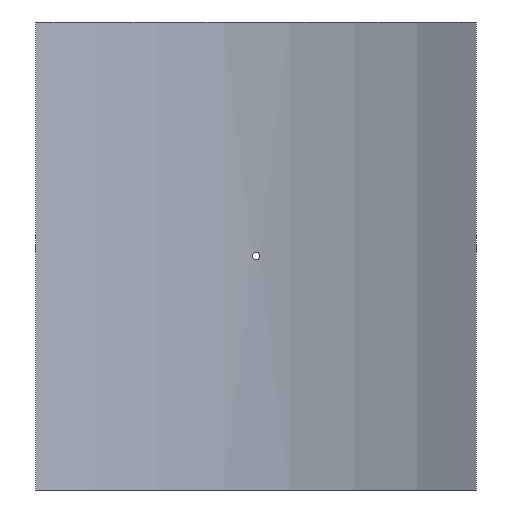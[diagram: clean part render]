
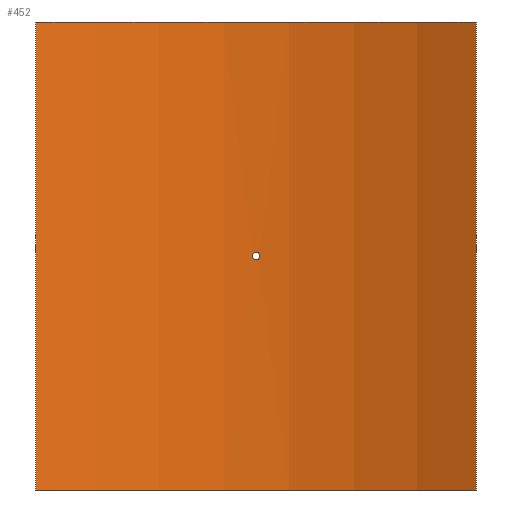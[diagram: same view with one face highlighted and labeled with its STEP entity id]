
A CAD part, front view. The second image highlights one B-rep face of the part: STEP entity #452.
In plain terms, the highlighted cylindrical face has radius 600 mm (diameter 1200 mm), a partial arc.
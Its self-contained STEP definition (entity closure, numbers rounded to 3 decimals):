
#19=B_SPLINE_CURVE_WITH_KNOTS('',3,(#788,#789,#790,#791,#792,#793,#794,
#795,#796,#797,#798,#799,#800,#801,#802,#803,#804,#805,#806,#807,#808,#809,
#810,#811,#812,#813,#814,#815,#816,#817,#818,#819,#820,#821),
 .UNSPECIFIED.,.T.,.F.,(4,2,2,2,2,2,2,2,2,2,2,2,2,2,2,2,4),(0.,0.181,
0.362,0.542,0.723,0.904,
1.085,1.266,1.446,1.627,1.808,
1.989,2.17,2.351,2.531,2.712,
2.893),.UNSPECIFIED.);
#43=LINE('',#1089,#62);
#44=LINE('',#1092,#63);
#62=VECTOR('',#661,10.);
#63=VECTOR('',#664,10.);
#76=CYLINDRICAL_SURFACE('',#530,600.);
#88=FACE_BOUND('',#167,.T.);
#127=FACE_OUTER_BOUND('',#166,.T.);
#166=EDGE_LOOP('',(#405,#406,#407,#408));
#167=EDGE_LOOP('',(#409));
#201=CIRCLE('',#529,600.);
#202=CIRCLE('',#531,600.);
#219=VERTEX_POINT('',#786);
#242=VERTEX_POINT('',#1082);
#243=VERTEX_POINT('',#1084);
#244=VERTEX_POINT('',#1088);
#245=VERTEX_POINT('',#1090);
#267=EDGE_CURVE('',#219,#219,#19,.T.);
#299=EDGE_CURVE('',#242,#243,#201,.T.);
#301=EDGE_CURVE('',#244,#242,#43,.T.);
#302=EDGE_CURVE('',#245,#244,#202,.T.);
#303=EDGE_CURVE('',#245,#243,#44,.T.);
#405=ORIENTED_EDGE('',*,*,#301,.F.);
#406=ORIENTED_EDGE('',*,*,#302,.F.);
#407=ORIENTED_EDGE('',*,*,#303,.T.);
#408=ORIENTED_EDGE('',*,*,#299,.F.);
#409=ORIENTED_EDGE('',*,*,#267,.T.);
#452=ADVANCED_FACE('',(#127,#88),#76,.F.);
#529=AXIS2_PLACEMENT_3D('',#1085,#656,#657);
#530=AXIS2_PLACEMENT_3D('',#1087,#659,#660);
#531=AXIS2_PLACEMENT_3D('',#1091,#662,#663);
#656=DIRECTION('center_axis',(0.,0.,1.));
#657=DIRECTION('ref_axis',(0.478,0.878,0.));
#659=DIRECTION('center_axis',(0.,0.,1.));
#660=DIRECTION('ref_axis',(0.478,0.878,0.));
#661=DIRECTION('',(0.,0.,-1.));
#662=DIRECTION('center_axis',(0.,0.,-1.));
#663=DIRECTION('ref_axis',(0.478,0.878,0.));
#664=DIRECTION('',(0.,0.,-1.));
#786=CARTESIAN_POINT('',(4.8,599.981,0.));
#788=CARTESIAN_POINT('Ctrl Pts',(4.8,599.981,0.));
#789=CARTESIAN_POINT('Ctrl Pts',(4.8,599.981,-0.603));
#790=CARTESIAN_POINT('Ctrl Pts',(4.68,599.982,-1.246));
#791=CARTESIAN_POINT('Ctrl Pts',(4.19,599.985,-2.428));
#792=CARTESIAN_POINT('Ctrl Pts',(3.82,599.988,-2.968));
#793=CARTESIAN_POINT('Ctrl Pts',(2.968,599.993,-3.82));
#794=CARTESIAN_POINT('Ctrl Pts',(2.428,599.995,-4.19));
#795=CARTESIAN_POINT('Ctrl Pts',(1.246,599.999,-4.68));
#796=CARTESIAN_POINT('Ctrl Pts',(0.603,600.,-4.8));
#797=CARTESIAN_POINT('Ctrl Pts',(-0.603,600.,-4.8));
#798=CARTESIAN_POINT('Ctrl Pts',(-1.246,599.999,-4.68));
#799=CARTESIAN_POINT('Ctrl Pts',(-2.428,599.995,-4.19));
#800=CARTESIAN_POINT('Ctrl Pts',(-2.968,599.993,-3.82));
#801=CARTESIAN_POINT('Ctrl Pts',(-3.82,599.988,-2.968));
#802=CARTESIAN_POINT('Ctrl Pts',(-4.19,599.985,-2.428));
#803=CARTESIAN_POINT('Ctrl Pts',(-4.68,599.982,-1.246));
#804=CARTESIAN_POINT('Ctrl Pts',(-4.8,599.981,-0.603));
#805=CARTESIAN_POINT('Ctrl Pts',(-4.8,599.981,0.603));
#806=CARTESIAN_POINT('Ctrl Pts',(-4.68,599.982,1.246));
#807=CARTESIAN_POINT('Ctrl Pts',(-4.19,599.985,2.428));
#808=CARTESIAN_POINT('Ctrl Pts',(-3.82,599.988,2.968));
#809=CARTESIAN_POINT('Ctrl Pts',(-2.968,599.993,3.82));
#810=CARTESIAN_POINT('Ctrl Pts',(-2.428,599.995,4.19));
#811=CARTESIAN_POINT('Ctrl Pts',(-1.246,599.999,4.68));
#812=CARTESIAN_POINT('Ctrl Pts',(-0.603,600.,4.8));
#813=CARTESIAN_POINT('Ctrl Pts',(0.603,600.,4.8));
#814=CARTESIAN_POINT('Ctrl Pts',(1.246,599.999,4.68));
#815=CARTESIAN_POINT('Ctrl Pts',(2.428,599.995,4.19));
#816=CARTESIAN_POINT('Ctrl Pts',(2.968,599.993,3.82));
#817=CARTESIAN_POINT('Ctrl Pts',(3.82,599.988,2.968));
#818=CARTESIAN_POINT('Ctrl Pts',(4.19,599.985,2.428));
#819=CARTESIAN_POINT('Ctrl Pts',(4.68,599.982,1.246));
#820=CARTESIAN_POINT('Ctrl Pts',(4.8,599.981,0.603));
#821=CARTESIAN_POINT('Ctrl Pts',(4.8,599.981,0.));
#1082=CARTESIAN_POINT('',(287.,526.907,-305.));
#1084=CARTESIAN_POINT('',(-287.,526.907,-305.));
#1085=CARTESIAN_POINT('Origin',(0.,0.,
-305.));
#1087=CARTESIAN_POINT('Origin',(0.,0.,
0.));
#1088=CARTESIAN_POINT('',(287.,526.907,305.));
#1089=CARTESIAN_POINT('',(287.,526.907,0.));
#1090=CARTESIAN_POINT('',(-287.,526.907,305.));
#1091=CARTESIAN_POINT('Origin',(0.,0.,
305.));
#1092=CARTESIAN_POINT('',(-287.,526.907,0.));
